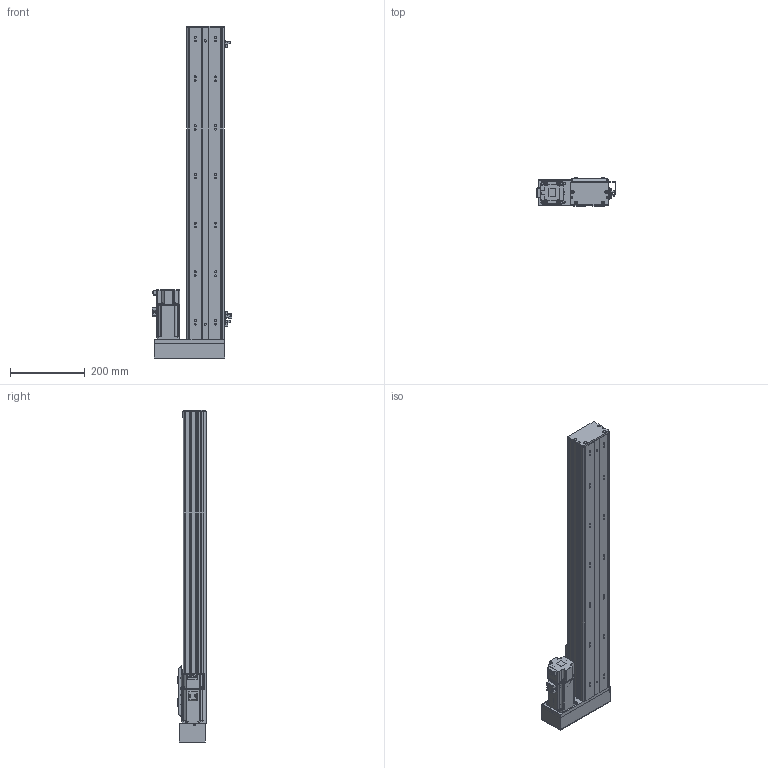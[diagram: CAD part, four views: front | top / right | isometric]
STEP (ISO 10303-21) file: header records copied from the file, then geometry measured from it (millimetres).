
FILE_DESCRIPTION (( 'STEP AP203' ), '1' );
FILE_NAME ('BOSW100-650-1610-1P-RM-M400W-O-S3（方程式2016）.step', '2020-10-10T07:19:16', ( '' ), ( '' ), 'SwSTEP 2.0', 'SolidWorks 2016', '' );
FILE_SCHEMA (( 'CONFIG_CONTROL_DESIGN' ));
Length unit declared in the file: millimetre
Products named in the file (14): BOSW-100-綴裔啣; AIMS(W)-100-LM&RM-肮祭謫欶; BOSW-100-1P-DM-宽轨-侧板-650客户图纸; 俋境嫖覜嘐隅啣; 新结构AIMSW-100-1P-宽&高轨共用-滑动座上组件; BOSW&TW-100-俋离覜茼え; BOSW&TW-100-詩湍揤沭(陔賦凳); boS-100-LM&RM-三菱M400W马达板-宽轨; BOSW-100-1P-DM-宽轨-钢带-650客户图纸; BOSW100-650-1610-1P-RM-M400W-O-S3（方程式2016）; BOSW-100-1P-DM-650諦誧芞; BOSW&TW-100-1P-賑雄釱欶; S400W(SMA-L040); 放大器内置U型微型光电传感器PM-L65
Assembly tree (19 placements, depth 2):
  BOSW100-650-1610-1P-RM-M400W-O-S3（方程式2016）
    BOSW-100-1P-DM-650諦誧芞
    BOSW-100-綴裔啣
    新结构AIMSW-100-1P-宽&高轨共用-滑动座上组件
    S400W(SMA-L040)
    BOSW&TW-100-詩湍揤沭(陔賦凳)  x2
    BOSW&TW-100-1P-賑雄釱欶
    BOSW-100-1P-DM-宽轨-侧板-650客户图纸  x2
    BOSW-100-1P-DM-宽轨-钢带-650客户图纸
    AIMS(W)-100-LM&RM-肮祭謫欶
    boS-100-LM&RM-三菱M400W马达板-宽轨
    俋境嫖覜嘐隅啣  x3
    放大器内置U型微型光电传感器PM-L65  x3
    BOSW&TW-100-俋离覜茼え
Bounding box: 213.4 x 75 x 886 mm (x, y, z)
Volume: 2009564.4 mm3; surface area: 948910.7 mm2
Topology: 19 solids, 20 shells, 2535 faces, 6693 edges, 4271 vertices
Faces by surface type: plane 1243, cylinder 806, bspline 271, cone 167, torus 36, sphere 12
Entity records: 69624 total; most frequent: CARTESIAN_POINT 20854, ORIENTED_EDGE 9926, DIRECTION 9615, EDGE_CURVE 4963, AXIS2_PLACEMENT_3D 3411, VERTEX_POINT 3173, VECTOR 2793, LINE 2793
